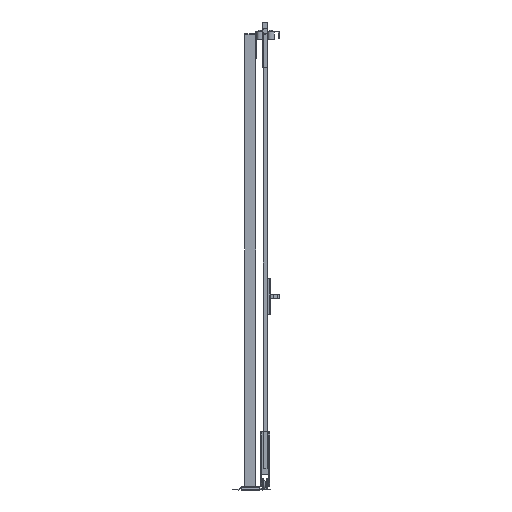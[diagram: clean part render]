
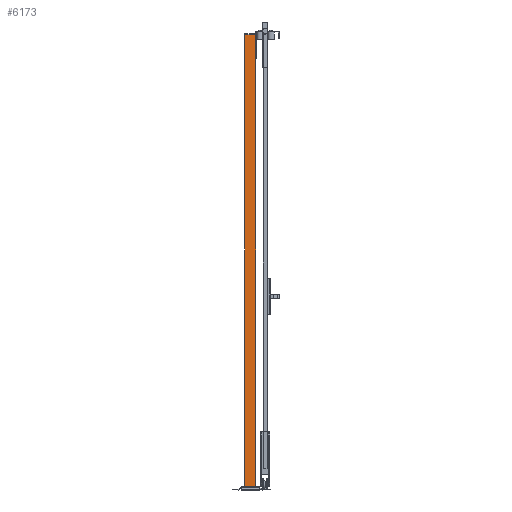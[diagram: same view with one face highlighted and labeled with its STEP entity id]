
A CAD part, left-side view. The second image highlights one B-rep face of the part: STEP entity #6173.
In plain terms, the highlighted planar face has unit normal (-1, 0, 0) as drawn and (0, 1, 0) by its records, which use the part's own axes.
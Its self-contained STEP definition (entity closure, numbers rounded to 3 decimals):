
#655=FACE_OUTER_BOUND('',#1095,.T.);
#1095=EDGE_LOOP('',(#3785,#3786,#3787,#3788));
#1596=VERTEX_POINT('',#12152);
#1597=VERTEX_POINT('',#12154);
#1599=VERTEX_POINT('',#12160);
#1602=VERTEX_POINT('',#12165);
#2496=EDGE_CURVE('',#1596,#1597,#7003,.T.);
#2502=EDGE_CURVE('',#1602,#1599,#7009,.T.);
#2505=EDGE_CURVE('',#1597,#1602,#7012,.T.);
#2506=EDGE_CURVE('',#1596,#1599,#7013,.T.);
#3785=ORIENTED_EDGE('',*,*,#2506,.T.);
#3786=ORIENTED_EDGE('',*,*,#2502,.F.);
#3787=ORIENTED_EDGE('',*,*,#2505,.F.);
#3788=ORIENTED_EDGE('',*,*,#2496,.F.);
#5801=PLANE('',#8846);
#6173=ADVANCED_FACE('',(#655),#5801,.F.);
#7003=LINE('',#12155,#7965);
#7009=LINE('',#12167,#7971);
#7012=LINE('',#12172,#7974);
#7013=LINE('',#12174,#7975);
#7965=VECTOR('',#9702,1.);
#7971=VECTOR('',#9710,1.);
#7974=VECTOR('',#9717,1.);
#7975=VECTOR('',#9720,1.);
#8846=AXIS2_PLACEMENT_3D('',#12173,#9718,#9719);
#9702=DIRECTION('',(-1.,0.,0.));
#9710=DIRECTION('',(1.,0.,0.));
#9717=DIRECTION('',(0.,0.,-1.));
#9718=DIRECTION('center_axis',(0.,-1.,0.));
#9719=DIRECTION('ref_axis',(0.,0.,-1.));
#9720=DIRECTION('',(0.,0.,-1.));
#12152=CARTESIAN_POINT('',(30.,30.,2520.));
#12154=CARTESIAN_POINT('',(-30.,30.,2520.));
#12155=CARTESIAN_POINT('',(0.,30.,2520.));
#12160=CARTESIAN_POINT('',(30.,30.,20.));
#12165=CARTESIAN_POINT('',(-30.,30.,20.));
#12167=CARTESIAN_POINT('',(0.,30.,20.));
#12172=CARTESIAN_POINT('',(-30.,30.,1270.));
#12173=CARTESIAN_POINT('Origin',(0.,30.,
1270.));
#12174=CARTESIAN_POINT('',(30.,30.,1270.));
